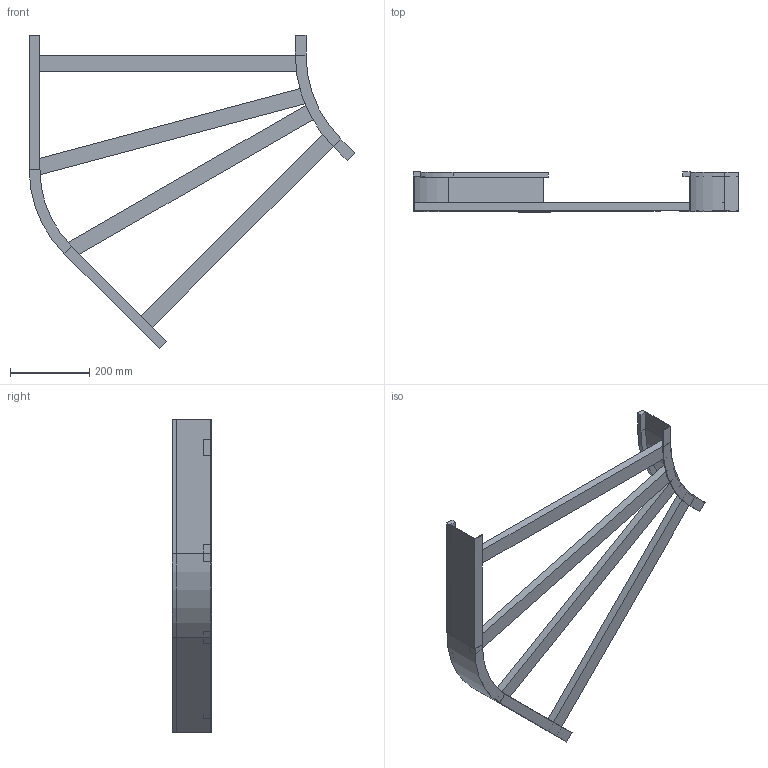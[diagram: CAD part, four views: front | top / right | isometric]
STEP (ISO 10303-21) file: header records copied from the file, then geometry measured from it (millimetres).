
FILE_DESCRIPTION (( 'STEP AP214' ), '1' );
FILE_NAME ('B2_11B3D700.step', '2025-02-21T15:13:09', ( '' ), ( '' ), 'SwSTEP 2.0', 'SolidWorks 2023', '' );
FILE_SCHEMA (( 'AUTOMOTIVE_DESIGN' ));
Length unit declared in the file: millimetre
Products named in the file (5): TRAVERSINO_700; TRAVERSINO_800_SCANTONATO; B2_LONGH.INTERNO 45°_H100_R300; B2_11B3D700; B2_LONGH.ESTERNO 45°_H100_R300+700
Assembly tree (6 placements, depth 2):
  B2_11B3D700
    B2_LONGH.INTERNO 45°_H100_R300
    B2_LONGH.ESTERNO 45°_H100_R300+700
    TRAVERSINO_700  x2
    TRAVERSINO_800_SCANTONATO  x2
Bounding box: 823.22 x 100 x 792.46 mm (x, y, z)
Volume: 2873345.5 mm3; surface area: 712743.2 mm2
Topology: 6 solids, 6 shells, 76 faces, 160 edges, 96 vertices
Faces by surface type: plane 68, cylinder 8
Entity records: 1830 total; most frequent: DIRECTION 298, CARTESIAN_POINT 289, ORIENTED_EDGE 272, EDGE_CURVE 136, LINE 120, VECTOR 120, AXIS2_PLACEMENT_3D 89, VERTEX_POINT 80
